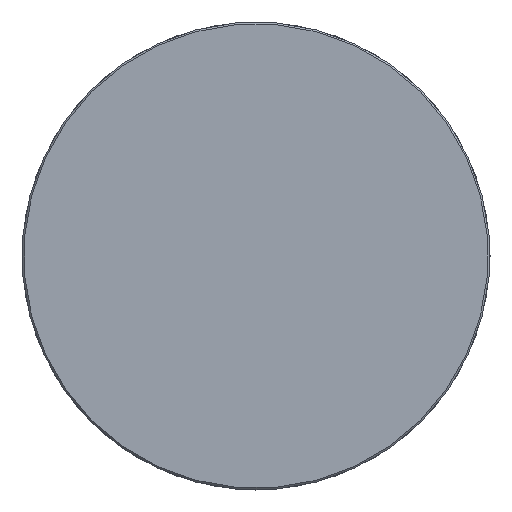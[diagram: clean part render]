
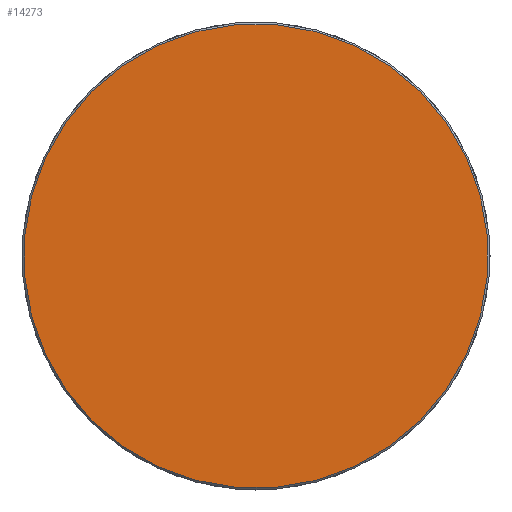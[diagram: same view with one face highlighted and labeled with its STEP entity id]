
A CAD part, left-side view. The second image highlights one B-rep face of the part: STEP entity #14273.
In plain terms, the highlighted planar face has unit normal (-1, 0, 0).
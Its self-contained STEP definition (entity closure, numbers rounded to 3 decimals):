
#228 = EDGE_CURVE ( 'NONE', #22026, #22156, #850, .T. ) ;
#543 = DIRECTION ( 'NONE',  ( 0., -0.707, -0.707 ) ) ;
#553 = DIRECTION ( 'NONE',  ( 1., 0., 0. ) ) ;
#578 = PLANE ( 'NONE',  #13497 ) ;
#583 = CARTESIAN_POINT ( 'NONE',  ( -76.043, 20.015, -23.164 ) ) ;
#850 = CIRCLE ( 'NONE', #20106, 25.8 ) ;
#9758 = CIRCLE ( 'NONE', #26963, 25.8 ) ;
#13306 = EDGE_CURVE ( 'NONE', #22156, #22026, #9758, .T. ) ;
#13497 = AXIS2_PLACEMENT_3D ( 'NONE', #583, #553, #543 ) ;
#14273 = ADVANCED_FACE ( 'NONE', ( #19090 ), #578, .F. ) ;
#15990 = CARTESIAN_POINT ( 'NONE',  ( -76.043, 1.63, -4.779 ) ) ;
#15995 = DIRECTION ( 'NONE',  ( 0., -0.707, -0.707 ) ) ;
#16015 = DIRECTION ( 'NONE',  ( -1., 0., 0. ) ) ;
#19090 = FACE_OUTER_BOUND ( 'NONE', #21788, .T. ) ;
#20106 = AXIS2_PLACEMENT_3D ( 'NONE', #15990, #16015, #15995 ) ;
#20114 = DIRECTION ( 'NONE',  ( -1., 0., 0. ) ) ;
#20118 = DIRECTION ( 'NONE',  ( 0., -0.707, -0.707 ) ) ;
#21788 = EDGE_LOOP ( 'NONE', ( #23231, #23227 ) ) ;
#22026 = VERTEX_POINT ( 'NONE', #24242 ) ;
#22156 = VERTEX_POINT ( 'NONE', #24329 ) ;
#23227 = ORIENTED_EDGE ( 'NONE', *, *, #228, .T. ) ;
#23231 = ORIENTED_EDGE ( 'NONE', *, *, #13306, .T. ) ;
#23534 = CARTESIAN_POINT ( 'NONE',  ( -76.043, 1.63, -4.779 ) ) ;
#24242 = CARTESIAN_POINT ( 'NONE',  ( -76.043, 19.874, 13.464 ) ) ;
#24329 = CARTESIAN_POINT ( 'NONE',  ( -76.043, -16.613, -23.022 ) ) ;
#26963 = AXIS2_PLACEMENT_3D ( 'NONE', #23534, #20114, #20118 ) ;
